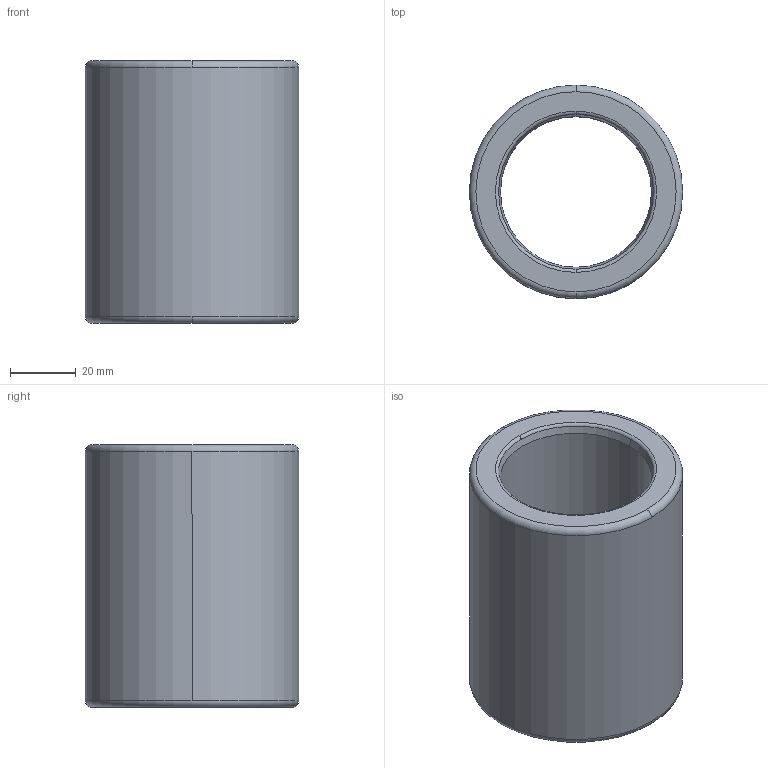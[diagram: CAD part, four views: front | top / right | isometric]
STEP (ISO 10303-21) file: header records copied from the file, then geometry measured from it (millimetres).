
FILE_DESCRIPTION((''),'2;1');
FILE_NAME('B30_038_080.stp','2009-01-12T10:46:01',(''),(''),'Mechanical Desktop 2009','Mechanical Desktop 2009',', , ');
FILE_SCHEMA(('CONFIG_CONTROL_DESIGN'));
Length unit declared in the file: millimetre
Products named in the file (2): Product; blmdl1
Assembly tree (1 placements, depth 2):
  Product
    blmdl1
Bounding box: 64.99 x 64.99 x 80 mm (x, y, z)
Volume: 131898 mm3; surface area: 30586.9 mm2
Topology: 1 solids, 1 shells, 18 faces, 48 edges, 32 vertices
Faces by surface type: torus 8, cylinder 4, cone 4, plane 2
Entity records: 705 total; most frequent: DIRECTION 128, CARTESIAN_POINT 100, ORIENTED_EDGE 96, AXIS2_PLACEMENT_3D 60, EDGE_CURVE 48, CIRCLE 40, VERTEX_POINT 32, EDGE_LOOP 20
